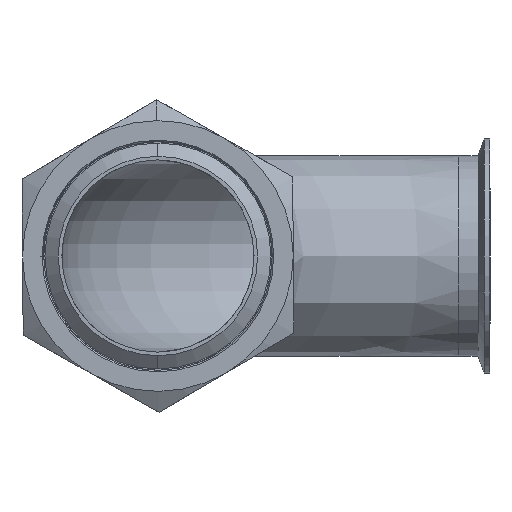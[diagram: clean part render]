
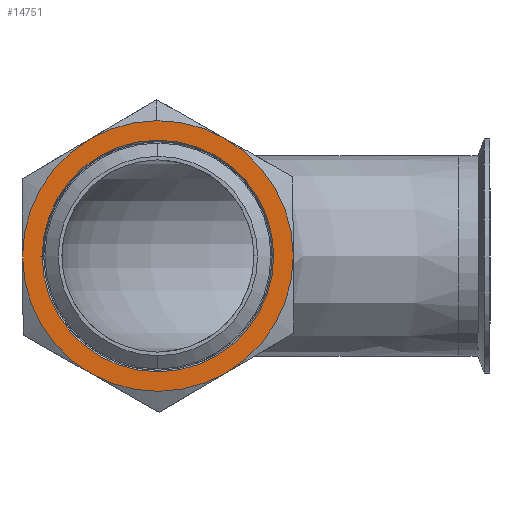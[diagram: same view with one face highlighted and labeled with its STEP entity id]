
A CAD part, left-side view. The second image highlights one B-rep face of the part: STEP entity #14751.
In plain terms, the highlighted planar face has unit normal (-1, 0, 0) as drawn and (0, 0, 1) by its records, which use the part's own axes.
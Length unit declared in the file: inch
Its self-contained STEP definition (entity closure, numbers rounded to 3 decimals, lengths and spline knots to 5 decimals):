
#618 = ORIENTED_EDGE ( 'NONE', *, *, #10806, .T. ) ;
#1034 = EDGE_CURVE ( 'NONE', #1990, #8825, #7608, .T. ) ;
#1081 = AXIS2_PLACEMENT_3D ( 'NONE', #6321, #15074, #7553 ) ;
#1434 = EDGE_CURVE ( 'NONE', #15869, #12678, #11361, .T. ) ;
#1629 = VERTEX_POINT ( 'NONE', #4384 ) ;
#1832 = EDGE_CURVE ( 'NONE', #12678, #1629, #7256, .T. ) ;
#1968 = CARTESIAN_POINT ( 'NONE',  ( -2.33827, 1.35, 1.51 ) ) ;
#1990 = VERTEX_POINT ( 'NONE', #2285 ) ;
#2011 = AXIS2_PLACEMENT_3D ( 'NONE', #10257, #13064, #5615 ) ;
#2285 = CARTESIAN_POINT ( 'NONE',  ( 2.33827, 1.35, 1.51 ) ) ;
#2513 = CARTESIAN_POINT ( 'NONE',  ( 0., 0., 1.51 ) ) ;
#2770 = EDGE_CURVE ( 'NONE', #1629, #6122, #6637, .T. ) ;
#2832 = PLANE ( 'NONE',  #2011 ) ;
#3012 = EDGE_LOOP ( 'NONE', ( #12528, #5462, #11745, #10327, #8802, #15048, #15687 ) ) ;
#3197 = EDGE_CURVE ( 'NONE', #6122, #8779, #6255, .T. ) ;
#3320 = EDGE_CURVE ( 'NONE', #15959, #15866, #6088, .T. ) ;
#3421 = DIRECTION ( 'NONE',  ( 1., 0., 0. ) ) ;
#3466 = DIRECTION ( 'NONE',  ( 0., 0., 1. ) ) ;
#3573 = CARTESIAN_POINT ( 'NONE',  ( 0., 0., 1.51 ) ) ;
#3752 = DIRECTION ( 'NONE',  ( 1., 0., 0. ) ) ;
#3985 = CIRCLE ( 'NONE', #12004, 2.7 ) ;
#4384 = CARTESIAN_POINT ( 'NONE',  ( 0., -2.7, 1.51 ) ) ;
#4395 = AXIS2_PLACEMENT_3D ( 'NONE', #12474, #5025, #13759 ) ;
#4526 = CIRCLE ( 'NONE', #12307, 2.7 ) ;
#5025 = DIRECTION ( 'NONE',  ( 0., 0., 1. ) ) ;
#5257 = EDGE_CURVE ( 'NONE', #8779, #1990, #4526, .T. ) ;
#5462 = ORIENTED_EDGE ( 'NONE', *, *, #5257, .T. ) ;
#5475 = DIRECTION ( 'NONE',  ( 0., 0., 1. ) ) ;
#5615 = DIRECTION ( 'NONE',  ( 1., 0., 0. ) ) ;
#5640 = DIRECTION ( 'NONE',  ( 1., 0., 0. ) ) ;
#5695 = EDGE_CURVE ( 'NONE', #8825, #15869, #3985, .T. ) ;
#5697 = DIRECTION ( 'NONE',  ( 0., 0., 1. ) ) ;
#5758 = CARTESIAN_POINT ( 'NONE',  ( 0., 0., 1.51 ) ) ;
#6061 = AXIS2_PLACEMENT_3D ( 'NONE', #7209, #15996, #8464 ) ;
#6066 = CIRCLE ( 'NONE', #12199, 2.31 ) ;
#6088 = CIRCLE ( 'NONE', #1081, 2.31 ) ;
#6122 = VERTEX_POINT ( 'NONE', #13169 ) ;
#6255 = CIRCLE ( 'NONE', #4395, 2.7 ) ;
#6321 = CARTESIAN_POINT ( 'NONE',  ( 0., 0., 1.51 ) ) ;
#6550 = DIRECTION ( 'NONE',  ( 0., 0., 1. ) ) ;
#6564 = AXIS2_PLACEMENT_3D ( 'NONE', #3573, #3466, #3421 ) ;
#6637 = CIRCLE ( 'NONE', #6061, 2.7 ) ;
#7209 = CARTESIAN_POINT ( 'NONE',  ( 0., 0., 1.51 ) ) ;
#7256 = CIRCLE ( 'NONE', #6564, 2.7 ) ;
#7553 = DIRECTION ( 'NONE',  ( 1., 0., 0. ) ) ;
#7608 = CIRCLE ( 'NONE', #9799, 2.7 ) ;
#7831 = DIRECTION ( 'NONE',  ( 1., 0., 0. ) ) ;
#7873 = DIRECTION ( 'NONE',  ( 0., 0., 1. ) ) ;
#7942 = CARTESIAN_POINT ( 'NONE',  ( 0., 0., 1.51 ) ) ;
#8143 = CARTESIAN_POINT ( 'NONE',  ( -2.31, 0., 1.51 ) ) ;
#8464 = DIRECTION ( 'NONE',  ( 1., 0., 0. ) ) ;
#8779 = VERTEX_POINT ( 'NONE', #12771 ) ;
#8802 = ORIENTED_EDGE ( 'NONE', *, *, #1434, .T. ) ;
#8825 = VERTEX_POINT ( 'NONE', #12828 ) ;
#8916 = FACE_OUTER_BOUND ( 'NONE', #3012, .T. ) ;
#9358 = FACE_BOUND ( 'NONE', #13306, .T. ) ;
#9394 = CARTESIAN_POINT ( 'NONE',  ( 2.31, 0., 1.51 ) ) ;
#9799 = AXIS2_PLACEMENT_3D ( 'NONE', #7942, #7873, #7831 ) ;
#10257 = CARTESIAN_POINT ( 'NONE',  ( 0., 0., 1.51 ) ) ;
#10327 = ORIENTED_EDGE ( 'NONE', *, *, #5695, .T. ) ;
#10806 = EDGE_CURVE ( 'NONE', #15866, #15959, #6066, .T. ) ;
#11121 = CARTESIAN_POINT ( 'NONE',  ( -2.33827, -1.35, 1.51 ) ) ;
#11190 = DIRECTION ( 'NONE',  ( 0., 0., -1. ) ) ;
#11361 = CIRCLE ( 'NONE', #11559, 2.7 ) ;
#11559 = AXIS2_PLACEMENT_3D ( 'NONE', #5758, #5697, #5640 ) ;
#11745 = ORIENTED_EDGE ( 'NONE', *, *, #1034, .T. ) ;
#12004 = AXIS2_PLACEMENT_3D ( 'NONE', #12928, #5475, #14198 ) ;
#12153 = ORIENTED_EDGE ( 'NONE', *, *, #3320, .T. ) ;
#12199 = AXIS2_PLACEMENT_3D ( 'NONE', #2513, #11190, #3752 ) ;
#12307 = AXIS2_PLACEMENT_3D ( 'NONE', #14024, #6550, #15307 ) ;
#12474 = CARTESIAN_POINT ( 'NONE',  ( 0., 0., 1.51 ) ) ;
#12528 = ORIENTED_EDGE ( 'NONE', *, *, #3197, .T. ) ;
#12678 = VERTEX_POINT ( 'NONE', #11121 ) ;
#12771 = CARTESIAN_POINT ( 'NONE',  ( 2.7, 0., 1.51 ) ) ;
#12828 = CARTESIAN_POINT ( 'NONE',  ( 0., 2.7, 1.51 ) ) ;
#12928 = CARTESIAN_POINT ( 'NONE',  ( 0., 0., 1.51 ) ) ;
#13064 = DIRECTION ( 'NONE',  ( 0., 0., 1. ) ) ;
#13169 = CARTESIAN_POINT ( 'NONE',  ( 2.33827, -1.35, 1.51 ) ) ;
#13306 = EDGE_LOOP ( 'NONE', ( #618, #12153 ) ) ;
#13759 = DIRECTION ( 'NONE',  ( 1., 0., 0. ) ) ;
#14024 = CARTESIAN_POINT ( 'NONE',  ( 0., 0., 1.51 ) ) ;
#14198 = DIRECTION ( 'NONE',  ( 1., 0., 0. ) ) ;
#14751 = ADVANCED_FACE ( 'NONE', ( #9358, #8916 ), #2832, .T. ) ;
#15048 = ORIENTED_EDGE ( 'NONE', *, *, #1832, .T. ) ;
#15074 = DIRECTION ( 'NONE',  ( 0., 0., -1. ) ) ;
#15307 = DIRECTION ( 'NONE',  ( 1., 0., 0. ) ) ;
#15687 = ORIENTED_EDGE ( 'NONE', *, *, #2770, .T. ) ;
#15866 = VERTEX_POINT ( 'NONE', #9394 ) ;
#15869 = VERTEX_POINT ( 'NONE', #1968 ) ;
#15959 = VERTEX_POINT ( 'NONE', #8143 ) ;
#15996 = DIRECTION ( 'NONE',  ( 0., 0., 1. ) ) ;
